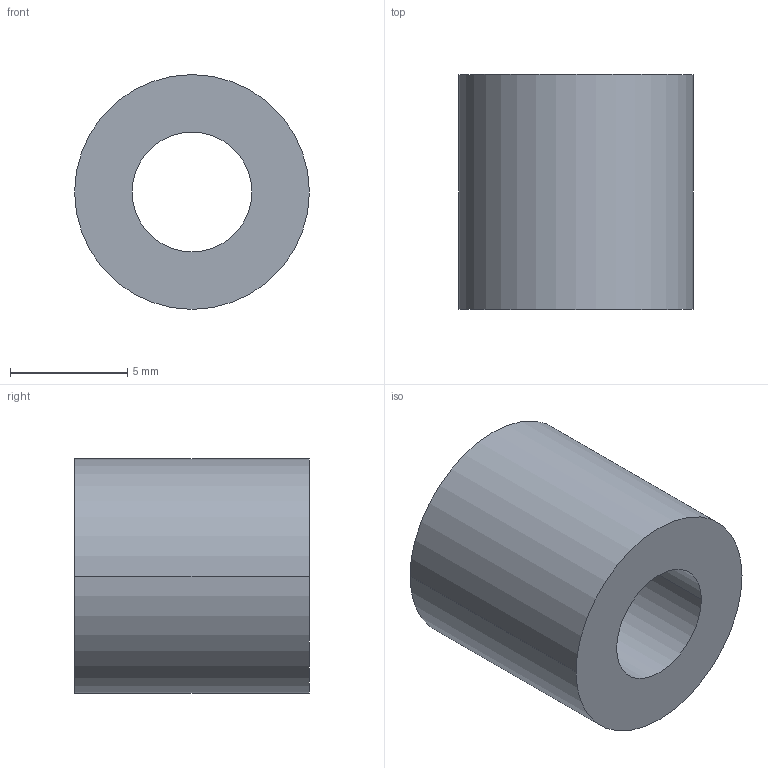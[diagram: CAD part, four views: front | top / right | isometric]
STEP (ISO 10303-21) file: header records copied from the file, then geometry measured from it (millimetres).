
FILE_DESCRIPTION (( 'STEP AP203' ), '1' );
FILE_NAME ('30800.WPP10D5.1.step', '2019-01-23T22:22:23', ( '' ), ( '' ), 'SwSTEP 2.0', 'SolidWorks 2017', '' );
FILE_SCHEMA (( 'CONFIG_CONTROL_DESIGN' ));
Length unit declared in the file: millimetre
Products named in the file (1): 30800.WPP10D5.1
Bounding box: 10 x 10 x 10 mm (x, y, z)
Volume: 572.4 mm3; surface area: 581.3 mm2
Topology: 1 solids, 1 shells, 8 faces, 16 edges, 10 vertices
Faces by surface type: cylinder 4, torus 2, plane 2
Entity records: 297 total; most frequent: DIRECTION 46, CARTESIAN_POINT 35, ORIENTED_EDGE 32, AXIS2_PLACEMENT_3D 21, EDGE_CURVE 16, CIRCLE 12, VERTEX_POINT 10, EDGE_LOOP 10
